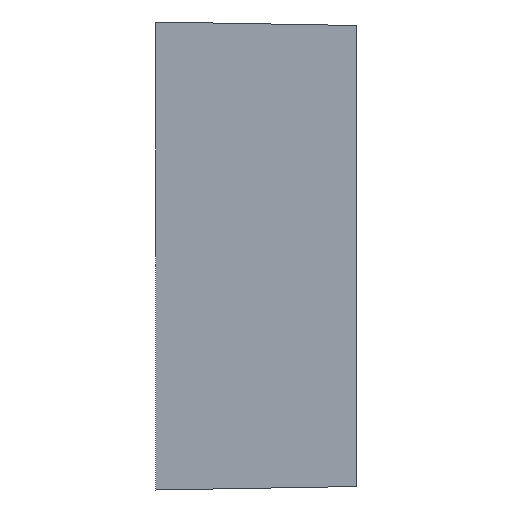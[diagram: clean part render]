
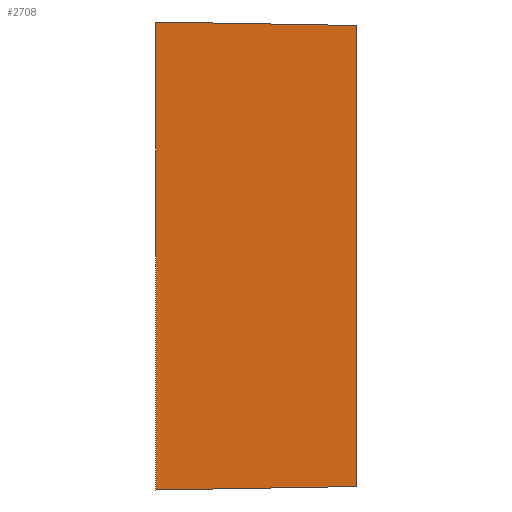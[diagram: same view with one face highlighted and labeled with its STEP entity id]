
A CAD part, left-side view. The second image highlights one B-rep face of the part: STEP entity #2708.
In plain terms, the highlighted planar face has unit normal (-1, 0, 0).
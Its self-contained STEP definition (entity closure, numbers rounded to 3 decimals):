
#39 = ORIENTED_EDGE ( 'NONE', *, *, #6769, .F. ) ;
#410 = CARTESIAN_POINT ( 'NONE',  ( -26.175, 33.5, 27.5 ) ) ;
#782 = CARTESIAN_POINT ( 'NONE',  ( -26.175, 32.5, 27.483 ) ) ;
#847 = CARTESIAN_POINT ( 'NONE',  ( -26.175, 8.9, -27.071 ) ) ;
#1047 = LINE ( 'NONE', #3310, #6693 ) ;
#1146 = AXIS2_PLACEMENT_3D ( 'NONE', #2901, #4494, #1762 ) ;
#1632 = DIRECTION ( 'NONE',  ( 0., -1., -0.017 ) ) ;
#1662 = PLANE ( 'NONE',  #1146 ) ;
#1762 = DIRECTION ( 'NONE',  ( 0., 1., 0. ) ) ;
#2106 = ORIENTED_EDGE ( 'NONE', *, *, #6992, .F. ) ;
#2311 = LINE ( 'NONE', #5023, #6037 ) ;
#2365 = VECTOR ( 'NONE', #3048, 1000. ) ;
#2417 = VERTEX_POINT ( 'NONE', #4131 ) ;
#2708 = ADVANCED_FACE ( 'NONE', ( #5364 ), #1662, .F. ) ;
#2901 = CARTESIAN_POINT ( 'NONE',  ( -26.175, 8.9, 0. ) ) ;
#3048 = DIRECTION ( 'NONE',  ( 0., 1., -0.017 ) ) ;
#3241 = DIRECTION ( 'NONE',  ( 0., 0., -1. ) ) ;
#3310 = CARTESIAN_POINT ( 'NONE',  ( -26.175, 8.9, 27.071 ) ) ;
#3344 = EDGE_LOOP ( 'NONE', ( #3538, #2106, #5660, #39 ) ) ;
#3385 = CARTESIAN_POINT ( 'NONE',  ( -26.175, 8.9, 27.071 ) ) ;
#3538 = ORIENTED_EDGE ( 'NONE', *, *, #5603, .F. ) ;
#3819 = VERTEX_POINT ( 'NONE', #4762 ) ;
#4131 = CARTESIAN_POINT ( 'NONE',  ( -26.175, 32.5, -27.483 ) ) ;
#4415 = EDGE_CURVE ( 'NONE', #5892, #3819, #1047, .T. ) ;
#4464 = VECTOR ( 'NONE', #1632, 1000. ) ;
#4494 = DIRECTION ( 'NONE',  ( 1., 0., 0. ) ) ;
#4762 = CARTESIAN_POINT ( 'NONE',  ( -26.175, 8.9, -27.071 ) ) ;
#5023 = CARTESIAN_POINT ( 'NONE',  ( -26.175, 32.5, -27.5 ) ) ;
#5058 = DIRECTION ( 'NONE',  ( 0., 0., 1. ) ) ;
#5290 = LINE ( 'NONE', #410, #4464 ) ;
#5364 = FACE_OUTER_BOUND ( 'NONE', #3344, .T. ) ;
#5603 = EDGE_CURVE ( 'NONE', #2417, #6052, #2311, .T. ) ;
#5660 = ORIENTED_EDGE ( 'NONE', *, *, #4415, .F. ) ;
#5892 = VERTEX_POINT ( 'NONE', #3385 ) ;
#6037 = VECTOR ( 'NONE', #5058, 1000. ) ;
#6052 = VERTEX_POINT ( 'NONE', #782 ) ;
#6228 = LINE ( 'NONE', #847, #2365 ) ;
#6693 = VECTOR ( 'NONE', #3241, 1000. ) ;
#6769 = EDGE_CURVE ( 'NONE', #6052, #5892, #5290, .T. ) ;
#6992 = EDGE_CURVE ( 'NONE', #3819, #2417, #6228, .T. ) ;
